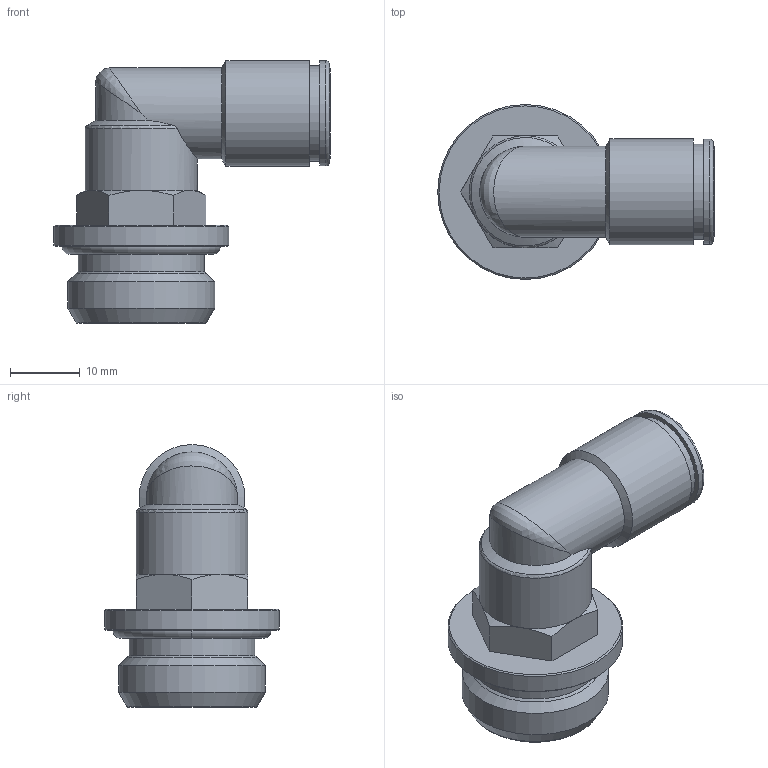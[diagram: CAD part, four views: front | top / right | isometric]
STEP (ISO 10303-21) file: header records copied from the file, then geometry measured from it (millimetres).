
FILE_DESCRIPTION(('Bauteilbeschreibung','HiCAD-Model','HiCAD-STEP-TRANSLATION','Bauteilbeschreibung'),'2;1');
FILE_NAME('B:/ABGLEICH/ZEICHNUNGEN/STEP FÜR INTERNET/STEP/202224_IPSO_022_10_1-2.STP','2011-09-19T09:19:05+00:00',('Konstrukteur'),('Konstrukteur Firma GmbH'),' HiCAD neXt 2008, Step 3.1.1401.2J ','HiCAD neXt 2008','confidential');
FILE_SCHEMA(('AUTOMOTIVE_DESIGN { 1 2 10303 214 0 1 1 1 }'));
Length unit declared in the file: millimetre
Products named in the file (7): A02224_IPSO_022_10_1_2; OR 17_12X2_62; A14630; A146300; G 1_2; DR10_N; R202208_N
Assembly tree (6 placements, depth 3):
  A02224_IPSO_022_10_1_2
    OR 17_12X2_62
    A14630
    A146300
      G 1_2
    DR10_N
    R202208_N
Bounding box: 39.5 x 25 x 37.55 mm (x, y, z)
Volume: 6209.9 mm3; surface area: 8573 mm2
Topology: 5 solids, 5 shells, 81 faces, 178 edges, 107 vertices
Faces by surface type: cone 28, cylinder 24, plane 20, torus 8, bspline 1
Full cylindrical faces by diameter (mm): 8 x2, 10.2 x2, 12.2 x2, 12.3 x1, 13 x2, 13.5 x2, 13.6 x1, 13.7 x1, 14.5 x1, 15 x1, 15.1 x1, 16 x1, 18 x1, 18.631 x2, 20.955 x1, 25 x1
Entity records: 3565 total; most frequent: CARTESIAN_POINT 1405, DIRECTION 352, ORIENTED_EDGE 228, AXIS2_PLACEMENT_3D 169, EDGE_LOOP 139, EDGE_CURVE 114, COLOUR_RGB 100, PRESENTATION_STYLE_ASSIGNMENT 100
